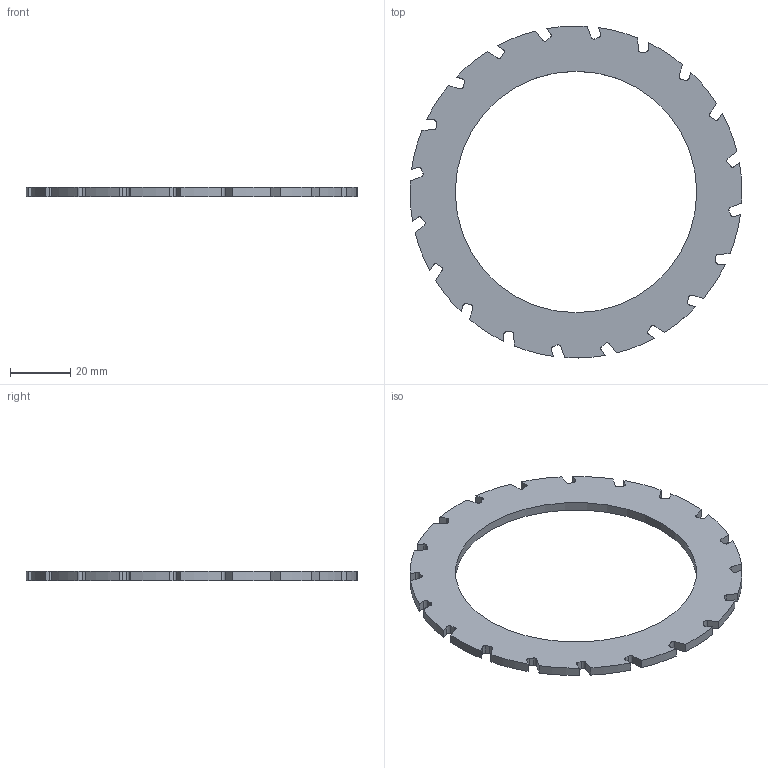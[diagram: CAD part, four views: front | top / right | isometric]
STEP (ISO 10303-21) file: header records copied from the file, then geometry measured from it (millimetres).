
FILE_DESCRIPTION(/* description */ (''),/* implementation_level */ '2;1');
FILE_NAME(/* name */ '/var/folders/_9/13ct5lzd5x98qhw9g85_2_nh0000gn/T/com.autodesk.mas.fusion360/Neutron/7a5fbef0-5da6-4af8-8a12-00b027af4a9c.stp',/* time_stamp */ '2019-05-06T23:43:13+02:00',/* author */ ('philip.daigreja@tu-dortmund.de'),/* organization */ (''),/* preprocessor_version */ 'ST-DEVELOPER v18',/* originating_system */ 'Autodesk Translation Framework v8.2.0.1029',/* authorisation */ '');
FILE_SCHEMA (('AUTOMOTIVE_DESIGN { 1 0 10303 214 3 1 1 }'));
Length unit declared in the file: millimetre
Products named in the file (1): Floor_Lamp_fix_ring mid
Bounding box: 109.99 x 109.99 x 3 mm (x, y, z)
Volume: 12645.1 mm3; surface area: 10620.8 mm2
Topology: 1 solids, 1 shells, 123 faces, 363 edges, 242 vertices
Faces by surface type: plane 62, cylinder 61
Full cylindrical faces by diameter (mm): 80 x1
Entity records: 4176 total; most frequent: DIRECTION 733, CARTESIAN_POINT 729, ORIENTED_EDGE 726, EDGE_CURVE 363, AXIS2_PLACEMENT_3D 246, VERTEX_POINT 242, LINE 241, VECTOR 241
